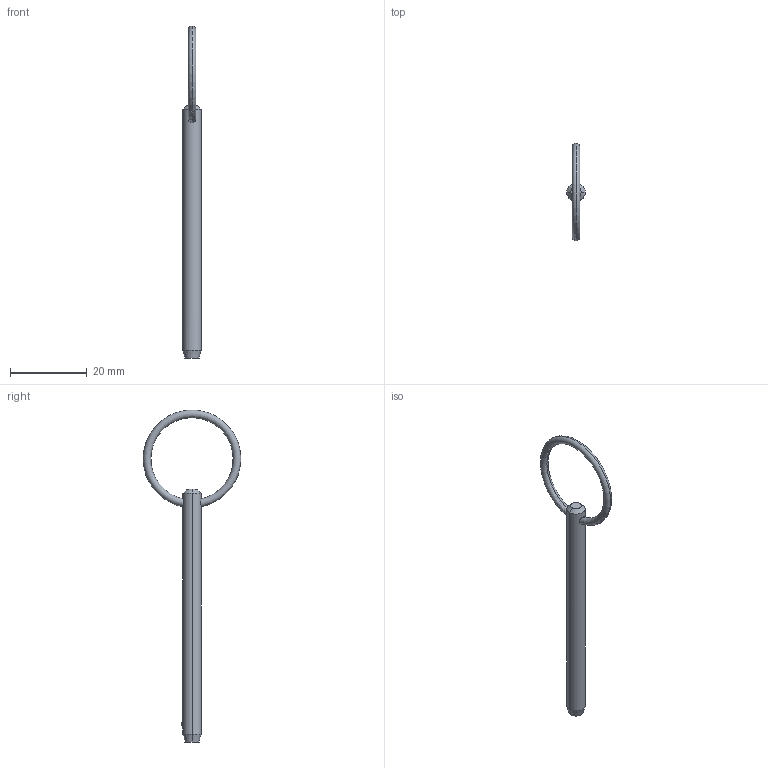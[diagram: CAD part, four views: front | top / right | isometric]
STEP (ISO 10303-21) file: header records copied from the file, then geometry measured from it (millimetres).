
FILE_DESCRIPTION (( 'STEP AP203' ), '1' );
FILE_NAME ('P1250.018-220.step', '2019-07-29T19:33:33', ( '' ), ( '' ), 'SwSTEP 2.0', 'SolidWorks 2017', '' );
FILE_SCHEMA (( 'CONFIG_CONTROL_DESIGN' ));
Length unit declared in the file: millimetre
Products named in the file (1): P1250.018-220
Bounding box: 4.76 x 25.4 x 86.38 mm (x, y, z)
Volume: 1372.1 mm3; surface area: 1426 mm2
Topology: 1 solids, 1 shells, 12 faces, 28 edges, 17 vertices
Faces by surface type: cone 4, torus 2, sphere 2, cylinder 2, plane 2
Entity records: 471 total; most frequent: CARTESIAN_POINT 138, DIRECTION 56, ORIENTED_EDGE 48, AXIS2_PLACEMENT_3D 25, EDGE_CURVE 24, VERTEX_POINT 15, EDGE_LOOP 15, FACE_OUTER_BOUND 12
